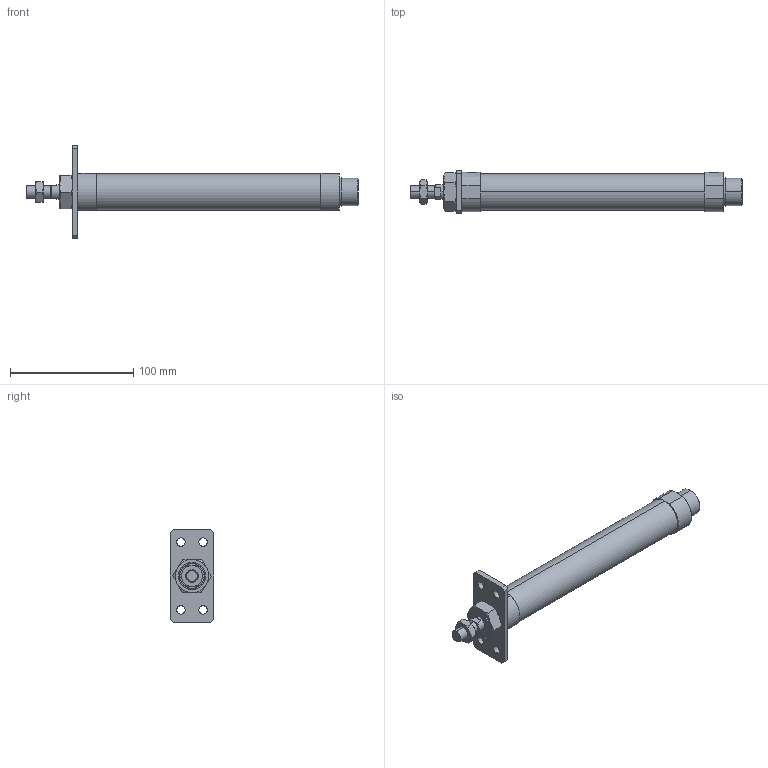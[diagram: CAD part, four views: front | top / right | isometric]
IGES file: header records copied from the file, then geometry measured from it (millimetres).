
Start section: SolidWorks IGES file using analytic representation for surfaces
Global section: file name: C:\Users\Toshiba\Desktop\J#2-25-150-A.IGS; native system: SolidWorks 2014; preprocessor: SolidWorks 2014; author: Toshiba; date: 160308.152629; units: millimetre
Bounding box: 269 x 35 x 75 mm (x, y, z)
Surface area: 34856.3 mm2 (no closed solid volume)
Topology: 0 solids, 0 shells, 117 faces, 2152 edges, 2148 vertices
Faces by surface type: bspline 71, revolution 46
